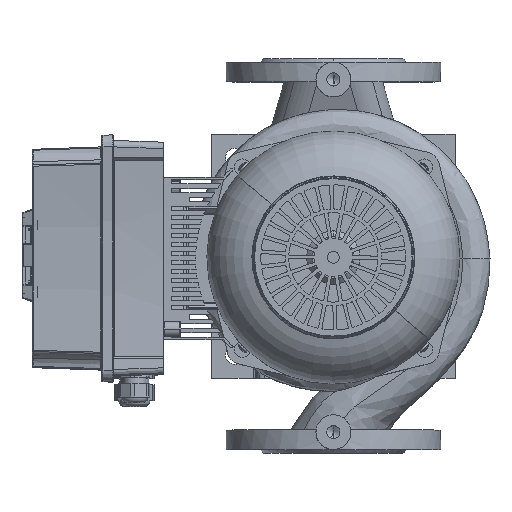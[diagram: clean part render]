
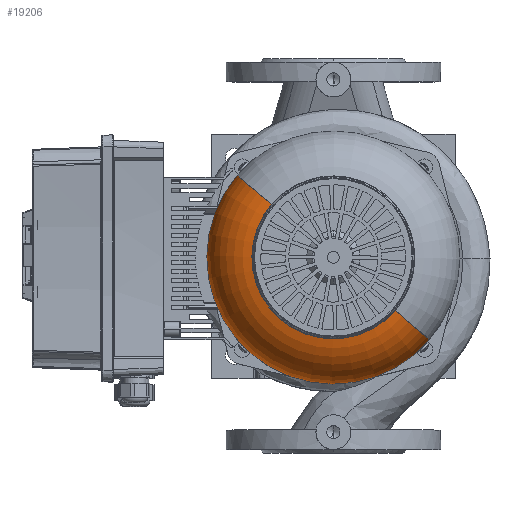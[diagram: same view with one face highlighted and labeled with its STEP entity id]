
A CAD part, top view. The second image highlights one B-rep face of the part: STEP entity #19206.
In plain terms, the highlighted toroidal (fillet/blend) face has major radius 59 mm and minor radius 50 mm.
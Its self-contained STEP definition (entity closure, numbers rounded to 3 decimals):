
#19206=ADVANCED_FACE('NONE',(#41091),#41092,.T.);
#41091=FACE_OUTER_BOUND('',#62921,.T.);
#41092=TOROIDAL_SURFACE('',#62922,59.0,50.0);
#62921=EDGE_LOOP('',(#91644,#91645,#91646,#91647));
#62922=AXIS2_PLACEMENT_3D('',#91648,#91649,#91650);
#91644=ORIENTED_EDGE('',*,*,#112756,.F.);
#91645=ORIENTED_EDGE('',*,*,#112755,.T.);
#91646=ORIENTED_EDGE('',*,*,#112757,.F.);
#91647=ORIENTED_EDGE('',*,*,#112758,.T.);
#91648=CARTESIAN_POINT('',(49.225,0.0,0.0));
#91649=DIRECTION('',(1.0,0.,0.));
#91650=DIRECTION('',(0.,0.,-1.0));
#112755=EDGE_CURVE('NONE',#140574,#140578,#140580,.T.);
#112756=EDGE_CURVE('',#140574,#140581,#140582,.T.);
#112757=EDGE_CURVE('',#140583,#140578,#140584,.T.);
#112758=EDGE_CURVE('NONE',#140583,#140581,#140585,.T.);
#140574=VERTEX_POINT('',#173503);
#140578=VERTEX_POINT('NONE',#173508);
#140580=CIRCLE('',#173511,109.);
#140581=VERTEX_POINT('NONE',#173512);
#140582=CIRCLE('',#173513,50.0);
#140583=VERTEX_POINT('',#173514);
#140584=CIRCLE('',#173515,50.0);
#140585=CIRCLE('',#173516,70.229);
#173503=CARTESIAN_POINT('',(49.225,0.,-109.));
#173508=CARTESIAN_POINT('',(49.225,0.,109.0));
#173511=AXIS2_PLACEMENT_3D('',#224580,#224581,#224582);
#173512=CARTESIAN_POINT('',(97.948,0.,-70.229));
#173513=AXIS2_PLACEMENT_3D('',#224583,#224584,#224585);
#173514=CARTESIAN_POINT('',(97.948,0.,70.229));
#173515=AXIS2_PLACEMENT_3D('',#224586,#224587,#224588);
#173516=AXIS2_PLACEMENT_3D('',#224589,#224590,#224591);
#224580=CARTESIAN_POINT('',(49.225,0.0,0.0));
#224581=DIRECTION('',(1.0,0.,0.));
#224582=DIRECTION('',(0.,0.,-1.0));
#224583=CARTESIAN_POINT('',(49.225,0.,-59.0));
#224584=DIRECTION('',(0.,-1.0,0.));
#224585=DIRECTION('',(0.,0.,-1.0));
#224586=CARTESIAN_POINT('',(49.225,0.,59.0));
#224587=DIRECTION('',(0.,-1.0,0.));
#224588=DIRECTION('',(0.,0.,1.0));
#224589=CARTESIAN_POINT('',(97.948,0.0,0.0));
#224590=DIRECTION('',(-1.0,0.,0.));
#224591=DIRECTION('',(0.,0.,1.0));
